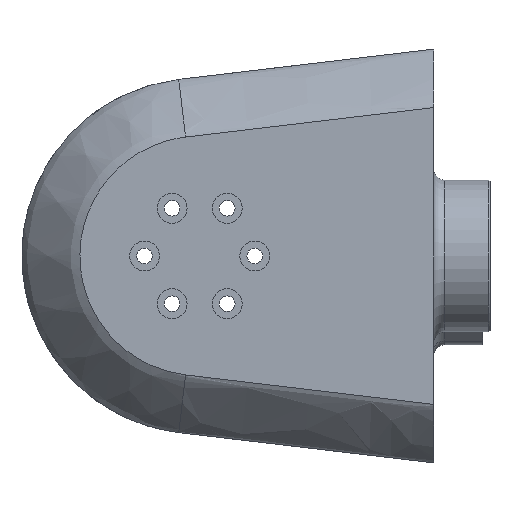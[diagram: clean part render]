
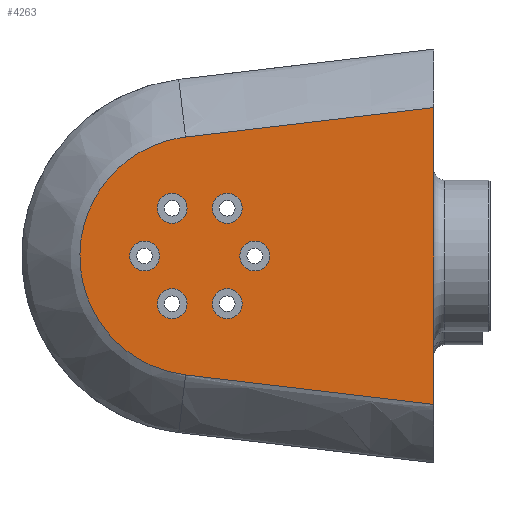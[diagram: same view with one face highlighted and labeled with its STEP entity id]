
A CAD part, front view. The second image highlights one B-rep face of the part: STEP entity #4263.
In plain terms, the highlighted planar face has unit normal (0, -1, 0).
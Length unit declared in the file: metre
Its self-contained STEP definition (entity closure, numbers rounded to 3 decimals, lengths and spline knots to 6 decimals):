
#241=B_SPLINE_CURVE_WITH_KNOTS('',3,(#7470,#7471,#7472,#7473),
 .UNSPECIFIED.,.F.,.F.,(4,4),(0.,1.),.UNSPECIFIED.);
#242=B_SPLINE_CURVE_WITH_KNOTS('',3,(#7475,#7476,#7477,#7478,#7479,#7480,
#7481,#7482,#7483,#7484,#7485),.UNSPECIFIED.,.F.,.F.,(4,1,1,1,1,1,1,1,4),
(0.,0.125,0.25,0.375,0.5,0.625,0.75,0.875,1.),.UNSPECIFIED.);
#243=B_SPLINE_CURVE_WITH_KNOTS('',3,(#7487,#7488,#7489,#7490),
 .UNSPECIFIED.,.F.,.F.,(4,4),(0.,1.),.UNSPECIFIED.);
#401=LINE('',#7404,#629);
#629=VECTOR('',#5758,1.);
#1277=ORIENTED_EDGE('',*,*,#2348,.F.);
#1278=ORIENTED_EDGE('',*,*,#2349,.F.);
#1279=ORIENTED_EDGE('',*,*,#2350,.F.);
#1280=ORIENTED_EDGE('',*,*,#2343,.F.);
#1281=ORIENTED_EDGE('',*,*,#2351,.F.);
#1282=ORIENTED_EDGE('',*,*,#2325,.F.);
#1283=ORIENTED_EDGE('',*,*,#2322,.F.);
#1284=ORIENTED_EDGE('',*,*,#2319,.F.);
#1285=ORIENTED_EDGE('',*,*,#2316,.F.);
#1286=ORIENTED_EDGE('',*,*,#2313,.F.);
#2313=EDGE_CURVE('',#2884,#2884,#3248,.T.);
#2316=EDGE_CURVE('',#2887,#2887,#3251,.T.);
#2319=EDGE_CURVE('',#2890,#2890,#3254,.T.);
#2322=EDGE_CURVE('',#2893,#2893,#3257,.T.);
#2325=EDGE_CURVE('',#2896,#2896,#3260,.T.);
#2343=EDGE_CURVE('',#2911,#2912,#401,.T.);
#2348=EDGE_CURVE('',#2913,#2911,#241,.T.);
#2349=EDGE_CURVE('',#2914,#2913,#242,.T.);
#2350=EDGE_CURVE('',#2912,#2914,#243,.T.);
#2351=EDGE_CURVE('',#2915,#2915,#3267,.T.);
#2884=VERTEX_POINT('',#7276);
#2887=VERTEX_POINT('',#7285);
#2890=VERTEX_POINT('',#7294);
#2893=VERTEX_POINT('',#7303);
#2896=VERTEX_POINT('',#7312);
#2911=VERTEX_POINT('',#7403);
#2912=VERTEX_POINT('',#7405);
#2913=VERTEX_POINT('',#7474);
#2914=VERTEX_POINT('',#7486);
#2915=VERTEX_POINT('',#7492);
#3248=CIRCLE('',#4725,0.004125);
#3251=CIRCLE('',#4731,0.004125);
#3254=CIRCLE('',#4737,0.004125);
#3257=CIRCLE('',#4743,0.004125);
#3260=CIRCLE('',#4749,0.004125);
#3267=CIRCLE('',#4763,0.004125);
#3522=EDGE_LOOP('',(#1277,#1278,#1279,#1280));
#3523=EDGE_LOOP('',(#1281));
#3524=EDGE_LOOP('',(#1282));
#3525=EDGE_LOOP('',(#1283));
#3526=EDGE_LOOP('',(#1284));
#3527=EDGE_LOOP('',(#1285));
#3528=EDGE_LOOP('',(#1286));
#3891=FACE_BOUND('',#3522,.T.);
#3892=FACE_BOUND('',#3523,.T.);
#3893=FACE_BOUND('',#3524,.T.);
#3894=FACE_BOUND('',#3525,.T.);
#3895=FACE_BOUND('',#3526,.T.);
#3896=FACE_BOUND('',#3527,.T.);
#3897=FACE_BOUND('',#3528,.T.);
#4126=PLANE('',#4762);
#4263=ADVANCED_FACE('',(#3891,#3892,#3893,#3894,#3895,#3896,#3897),#4126,
 .F.);
#4725=AXIS2_PLACEMENT_3D('',#7275,#5680,#5681);
#4731=AXIS2_PLACEMENT_3D('',#7284,#5692,#5693);
#4737=AXIS2_PLACEMENT_3D('',#7293,#5704,#5705);
#4743=AXIS2_PLACEMENT_3D('',#7302,#5716,#5717);
#4749=AXIS2_PLACEMENT_3D('',#7311,#5728,#5729);
#4762=AXIS2_PLACEMENT_3D('',#7469,#5765,#5766);
#4763=AXIS2_PLACEMENT_3D('',#7491,#5767,#5768);
#5680=DIRECTION('',(0.,-1.,0.));
#5681=DIRECTION('',(0.866,0.,0.5));
#5692=DIRECTION('',(0.,-1.,0.));
#5693=DIRECTION('',(0.866,0.,-0.5));
#5704=DIRECTION('',(0.,-1.,0.));
#5705=DIRECTION('',(0.,0.,-1.));
#5716=DIRECTION('',(0.,-1.,0.));
#5717=DIRECTION('',(-0.866,0.,-0.5));
#5728=DIRECTION('',(0.,-1.,0.));
#5729=DIRECTION('',(-0.866,0.,0.5));
#5758=DIRECTION('',(0.,0.,-1.));
#5765=DIRECTION('',(0.,1.,0.));
#5766=DIRECTION('',(0.,0.,1.));
#5767=DIRECTION('',(0.,-1.,0.));
#5768=DIRECTION('',(0.,0.,1.));
#7275=CARTESIAN_POINT('',(-0.20759,-0.055,0.359646));
#7276=CARTESIAN_POINT('',(-0.204018,-0.055,0.361709));
#7284=CARTESIAN_POINT('',(-0.19241,-0.055,0.359646));
#7285=CARTESIAN_POINT('',(-0.188838,-0.055,0.357584));
#7293=CARTESIAN_POINT('',(-0.18482,-0.055,0.3465));
#7294=CARTESIAN_POINT('',(-0.18482,-0.055,0.342375));
#7302=CARTESIAN_POINT('',(-0.19241,-0.055,0.333354));
#7303=CARTESIAN_POINT('',(-0.195982,-0.055,0.331291));
#7311=CARTESIAN_POINT('',(-0.20759,-0.055,0.333354));
#7312=CARTESIAN_POINT('',(-0.211162,-0.055,0.335416));
#7403=CARTESIAN_POINT('',(-0.1355,-0.055,0.387388));
#7404=CARTESIAN_POINT('',(-0.1355,-0.055,0.3465));
#7405=CARTESIAN_POINT('',(-0.1355,-0.055,0.305612));
#7469=CARTESIAN_POINT('',(-0.2555,-0.055,0.3465));
#7470=CARTESIAN_POINT('',(-0.20389,-0.055,0.37927));
#7471=CARTESIAN_POINT('',(-0.181093,-0.055,0.381976));
#7472=CARTESIAN_POINT('',(-0.158297,-0.055,0.384682));
#7473=CARTESIAN_POINT('',(-0.1355,-0.055,0.387388));
#7474=CARTESIAN_POINT('',(-0.20389,-0.055,0.37927));
#7475=CARTESIAN_POINT('',(-0.20389,-0.055,0.31373));
#7476=CARTESIAN_POINT('',(-0.207857,-0.055,0.314201));
#7477=CARTESIAN_POINT('',(-0.215616,-0.055,0.316599));
#7478=CARTESIAN_POINT('',(-0.22522,-0.055,0.324097));
#7479=CARTESIAN_POINT('',(-0.231533,-0.055,0.334517));
#7480=CARTESIAN_POINT('',(-0.233733,-0.055,0.3465));
#7481=CARTESIAN_POINT('',(-0.231533,-0.055,0.358483));
#7482=CARTESIAN_POINT('',(-0.22522,-0.055,0.368903));
#7483=CARTESIAN_POINT('',(-0.215616,-0.055,0.376401));
#7484=CARTESIAN_POINT('',(-0.207858,-0.055,0.378799));
#7485=CARTESIAN_POINT('',(-0.20389,-0.055,0.37927));
#7486=CARTESIAN_POINT('',(-0.20389,-0.055,0.31373));
#7487=CARTESIAN_POINT('',(-0.1355,-0.055,0.305612));
#7488=CARTESIAN_POINT('',(-0.158297,-0.055,0.308318));
#7489=CARTESIAN_POINT('',(-0.181093,-0.055,0.311024));
#7490=CARTESIAN_POINT('',(-0.20389,-0.055,0.31373));
#7491=CARTESIAN_POINT('',(-0.21518,-0.055,0.3465));
#7492=CARTESIAN_POINT('',(-0.21518,-0.055,0.350625));
